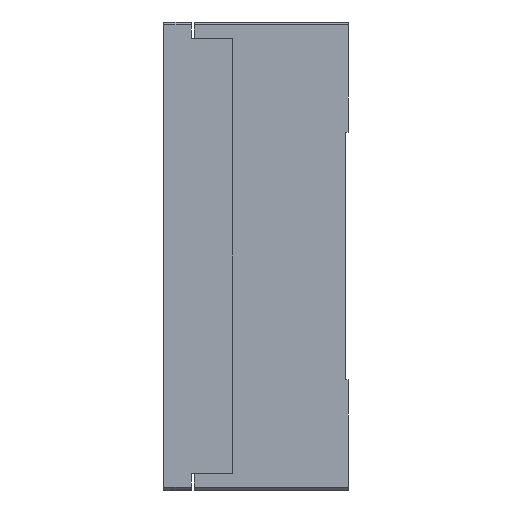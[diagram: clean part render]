
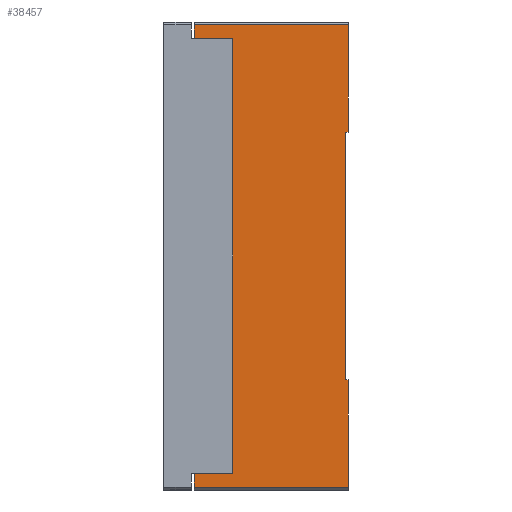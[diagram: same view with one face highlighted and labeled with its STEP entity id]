
A CAD part, left-side view. The second image highlights one B-rep face of the part: STEP entity #38457.
In plain terms, the highlighted planar face has unit normal (-1, 0, 0).
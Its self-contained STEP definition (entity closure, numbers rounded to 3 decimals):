
#492 = CARTESIAN_POINT ( 'NONE',  ( -105., 56., -79. ) ) ;
#1331 = CARTESIAN_POINT ( 'NONE',  ( -105., 0., 85. ) ) ;
#1471 = DIRECTION ( 'NONE',  ( 0., -1., 0. ) ) ;
#1558 = CARTESIAN_POINT ( 'NONE',  ( -105., 0., -45. ) ) ;
#1633 = ORIENTED_EDGE ( 'NONE', *, *, #35747, .T. ) ;
#2060 = LINE ( 'NONE', #16419, #2562 ) ;
#2312 = VECTOR ( 'NONE', #20923, 1000. ) ;
#2520 = EDGE_CURVE ( 'NONE', #27066, #39957, #14218, .T. ) ;
#2562 = VECTOR ( 'NONE', #8795, 1000. ) ;
#2582 = EDGE_CURVE ( 'NONE', #26974, #25037, #18308, .T. ) ;
#4540 = VECTOR ( 'NONE', #40822, 1000. ) ;
#5143 = ORIENTED_EDGE ( 'NONE', *, *, #21491, .T. ) ;
#6283 = LINE ( 'NONE', #40691, #4540 ) ;
#6614 = FACE_OUTER_BOUND ( 'NONE', #25145, .T. ) ;
#7482 = EDGE_CURVE ( 'NONE', #26974, #8577, #16593, .T. ) ;
#7671 = ORIENTED_EDGE ( 'NONE', *, *, #22143, .T. ) ;
#8577 = VERTEX_POINT ( 'NONE', #36111 ) ;
#8795 = DIRECTION ( 'NONE',  ( 0., 1., 0. ) ) ;
#8816 = CARTESIAN_POINT ( 'NONE',  ( -105., 56., 85. ) ) ;
#8919 = VERTEX_POINT ( 'NONE', #25616 ) ;
#9099 = DIRECTION ( 'NONE',  ( -1., 0., 0. ) ) ;
#9112 = DIRECTION ( 'NONE',  ( 0., 0., 1. ) ) ;
#11487 = VECTOR ( 'NONE', #33070, 1000. ) ;
#11489 = CARTESIAN_POINT ( 'NONE',  ( -105., 1., -45. ) ) ;
#11888 = CARTESIAN_POINT ( 'NONE',  ( -105., 56., -79. ) ) ;
#12640 = LINE ( 'NONE', #20837, #2312 ) ;
#13164 = ORIENTED_EDGE ( 'NONE', *, *, #7482, .F. ) ;
#13639 = CARTESIAN_POINT ( 'NONE',  ( -105., 0., -84. ) ) ;
#14218 = LINE ( 'NONE', #33110, #11487 ) ;
#14270 = LINE ( 'NONE', #1331, #24654 ) ;
#15559 = VECTOR ( 'NONE', #18564, 1000. ) ;
#15770 = EDGE_CURVE ( 'NONE', #19104, #27066, #18172, .T. ) ;
#16134 = CARTESIAN_POINT ( 'NONE',  ( -105., 56., -84. ) ) ;
#16419 = CARTESIAN_POINT ( 'NONE',  ( -105., 0., 45. ) ) ;
#16593 = LINE ( 'NONE', #18756, #15559 ) ;
#16802 = EDGE_CURVE ( 'NONE', #36946, #19104, #34063, .T. ) ;
#17105 = CARTESIAN_POINT ( 'NONE',  ( -105., 1., 45. ) ) ;
#18172 = LINE ( 'NONE', #1558, #18628 ) ;
#18179 = VERTEX_POINT ( 'NONE', #492 ) ;
#18308 = LINE ( 'NONE', #31268, #21788 ) ;
#18350 = ORIENTED_EDGE ( 'NONE', *, *, #38183, .F. ) ;
#18452 = DIRECTION ( 'NONE',  ( 0., 0., -1. ) ) ;
#18564 = DIRECTION ( 'NONE',  ( 0., 0., 1. ) ) ;
#18628 = VECTOR ( 'NONE', #1471, 1000. ) ;
#18756 = CARTESIAN_POINT ( 'NONE',  ( -105., 56., 85. ) ) ;
#19104 = VERTEX_POINT ( 'NONE', #11489 ) ;
#19212 = ORIENTED_EDGE ( 'NONE', *, *, #22717, .F. ) ;
#19583 = CARTESIAN_POINT ( 'NONE',  ( -105., 1., -45. ) ) ;
#20715 = ORIENTED_EDGE ( 'NONE', *, *, #2520, .F. ) ;
#20837 = CARTESIAN_POINT ( 'NONE',  ( -105., 42., 70. ) ) ;
#20923 = DIRECTION ( 'NONE',  ( 0., 0., -1. ) ) ;
#21321 = DIRECTION ( 'NONE',  ( 0., 1., 0. ) ) ;
#21491 = EDGE_CURVE ( 'NONE', #32935, #8577, #6283, .T. ) ;
#21788 = VECTOR ( 'NONE', #30803, 1000. ) ;
#22143 = EDGE_CURVE ( 'NONE', #33316, #39957, #27166, .T. ) ;
#22187 = CARTESIAN_POINT ( 'NONE',  ( -105., 56., 79. ) ) ;
#22717 = EDGE_CURVE ( 'NONE', #8919, #36946, #2060, .T. ) ;
#23743 = ORIENTED_EDGE ( 'NONE', *, *, #28185, .T. ) ;
#24654 = VECTOR ( 'NONE', #37295, 1000. ) ;
#24655 = EDGE_CURVE ( 'NONE', #33316, #18179, #41012, .T. ) ;
#24908 = CARTESIAN_POINT ( 'NONE',  ( -105., 42., -79. ) ) ;
#25037 = VERTEX_POINT ( 'NONE', #33696 ) ;
#25145 = EDGE_LOOP ( 'NONE', ( #23743, #1633, #38253, #7671, #20715, #42301, #28246, #19212, #18350, #5143, #13164, #37220 ) ) ;
#25159 = VERTEX_POINT ( 'NONE', #24908 ) ;
#25295 = CARTESIAN_POINT ( 'NONE',  ( -105., 0., 84. ) ) ;
#25616 = CARTESIAN_POINT ( 'NONE',  ( -105., 0., 45. ) ) ;
#26974 = VERTEX_POINT ( 'NONE', #22187 ) ;
#27066 = VERTEX_POINT ( 'NONE', #29564 ) ;
#27166 = LINE ( 'NONE', #40348, #35521 ) ;
#28185 = EDGE_CURVE ( 'NONE', #25037, #25159, #12640, .T. ) ;
#28246 = ORIENTED_EDGE ( 'NONE', *, *, #16802, .F. ) ;
#28745 = CARTESIAN_POINT ( 'NONE',  ( -105., 56., 85. ) ) ;
#29564 = CARTESIAN_POINT ( 'NONE',  ( -105., 0., -45. ) ) ;
#30803 = DIRECTION ( 'NONE',  ( 0., -1., 0. ) ) ;
#31268 = CARTESIAN_POINT ( 'NONE',  ( -105., 56., 79. ) ) ;
#32074 = DIRECTION ( 'NONE',  ( 0., 0., 1. ) ) ;
#32908 = DIRECTION ( 'NONE',  ( 0., -1., 0. ) ) ;
#32935 = VERTEX_POINT ( 'NONE', #25295 ) ;
#33070 = DIRECTION ( 'NONE',  ( 0., 0., -1. ) ) ;
#33110 = CARTESIAN_POINT ( 'NONE',  ( -105., 0., 85. ) ) ;
#33316 = VERTEX_POINT ( 'NONE', #16134 ) ;
#33696 = CARTESIAN_POINT ( 'NONE',  ( -105., 42., 79. ) ) ;
#34063 = LINE ( 'NONE', #19583, #34103 ) ;
#34103 = VECTOR ( 'NONE', #18452, 1000. ) ;
#35521 = VECTOR ( 'NONE', #32908, 1000. ) ;
#35747 = EDGE_CURVE ( 'NONE', #25159, #18179, #35940, .T. ) ;
#35940 = LINE ( 'NONE', #11888, #36944 ) ;
#36111 = CARTESIAN_POINT ( 'NONE',  ( -105., 56., 84. ) ) ;
#36944 = VECTOR ( 'NONE', #21321, 1000. ) ;
#36946 = VERTEX_POINT ( 'NONE', #17105 ) ;
#37220 = ORIENTED_EDGE ( 'NONE', *, *, #2582, .T. ) ;
#37295 = DIRECTION ( 'NONE',  ( 0., 0., -1. ) ) ;
#38183 = EDGE_CURVE ( 'NONE', #32935, #8919, #14270, .T. ) ;
#38253 = ORIENTED_EDGE ( 'NONE', *, *, #24655, .F. ) ;
#38457 = ADVANCED_FACE ( 'NONE', ( #6614 ), #41797, .T. ) ;
#39957 = VERTEX_POINT ( 'NONE', #13639 ) ;
#40348 = CARTESIAN_POINT ( 'NONE',  ( -105., 0., -84. ) ) ;
#40514 = VECTOR ( 'NONE', #9112, 1000. ) ;
#40691 = CARTESIAN_POINT ( 'NONE',  ( -105., 56., 84. ) ) ;
#40822 = DIRECTION ( 'NONE',  ( 0., 1., 0. ) ) ;
#41012 = LINE ( 'NONE', #8816, #40514 ) ;
#41020 = AXIS2_PLACEMENT_3D ( 'NONE', #28745, #9099, #32074 ) ;
#41797 = PLANE ( 'NONE',  #41020 ) ;
#42301 = ORIENTED_EDGE ( 'NONE', *, *, #15770, .F. ) ;
